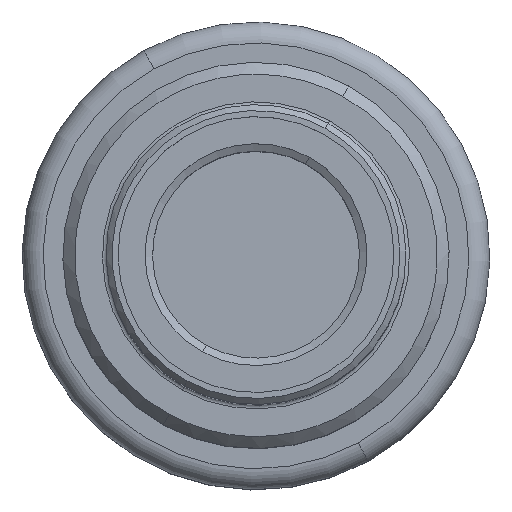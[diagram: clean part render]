
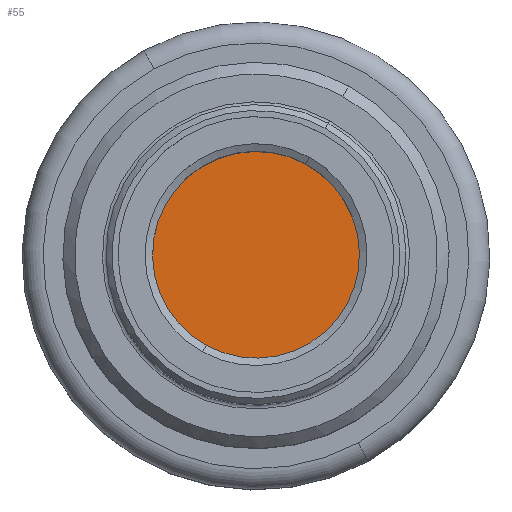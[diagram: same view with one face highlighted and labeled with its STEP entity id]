
A CAD part, top view. The second image highlights one B-rep face of the part: STEP entity #55.
In plain terms, the highlighted planar face has unit normal (0, 0, 1).
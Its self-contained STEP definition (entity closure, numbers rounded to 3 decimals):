
#35=AXIS2_PLACEMENT_3D('Plane Axis2P3D',#32,#33,#34) ;
#39=AXIS2_PLACEMENT_3D('Circle Axis2P3D',#37,#38,$) ;
#48=AXIS2_PLACEMENT_3D('Circle Axis2P3D',#46,#47,$) ;
#32=CARTESIAN_POINT('Axis2P3D Location',(0.,0.,-40.)) ;
#37=CARTESIAN_POINT('Axis2P3D Location',(0.,0.,-40.)) ;
#41=CARTESIAN_POINT('Vertex',(15.138,-8.27,-40.)) ;
#43=CARTESIAN_POINT('Vertex',(-15.138,8.27,-40.)) ;
#46=CARTESIAN_POINT('Axis2P3D Location',(0.,0.,-40.)) ;
#33=DIRECTION('Axis2P3D Direction',(0.,0.,1.)) ;
#34=DIRECTION('Axis2P3D XDirection',(1.,0.,0.)) ;
#38=DIRECTION('Axis2P3D Direction',(0.,0.,1.)) ;
#47=DIRECTION('Axis2P3D Direction',(0.,0.,1.)) ;
#52=ORIENTED_EDGE('',*,*,#45,.T.) ;
#53=ORIENTED_EDGE('',*,*,#50,.T.) ;
#55=ADVANCED_FACE('NOCUT',(#54),#36,.T.) ;
#40=CIRCLE('generated circle',#39,17.25) ;
#49=CIRCLE('generated circle',#48,17.25) ;
#45=EDGE_CURVE('',#42,#44,#40,.T.) ;
#50=EDGE_CURVE('',#44,#42,#49,.T.) ;
#51=EDGE_LOOP('',(#52,#53)) ;
#54=FACE_OUTER_BOUND('',#51,.T.) ;
#36=PLANE('',#35) ;
#42=VERTEX_POINT('',#41) ;
#44=VERTEX_POINT('',#43) ;
